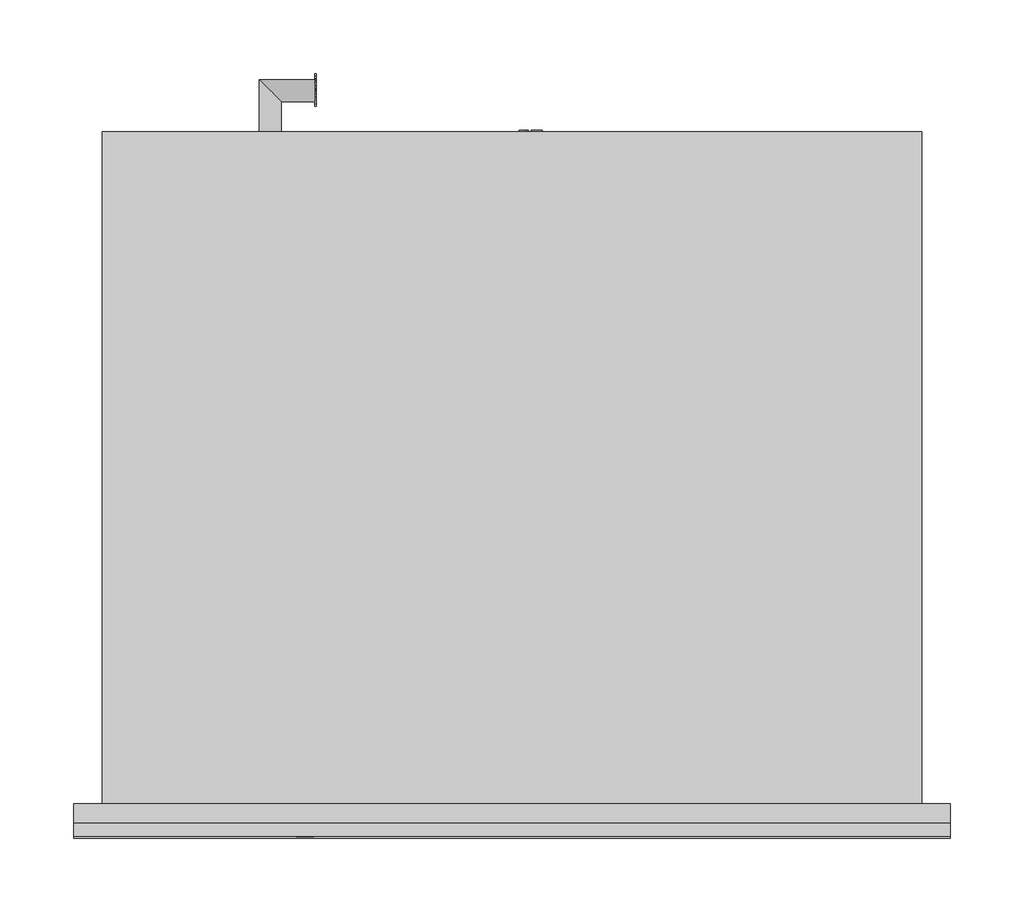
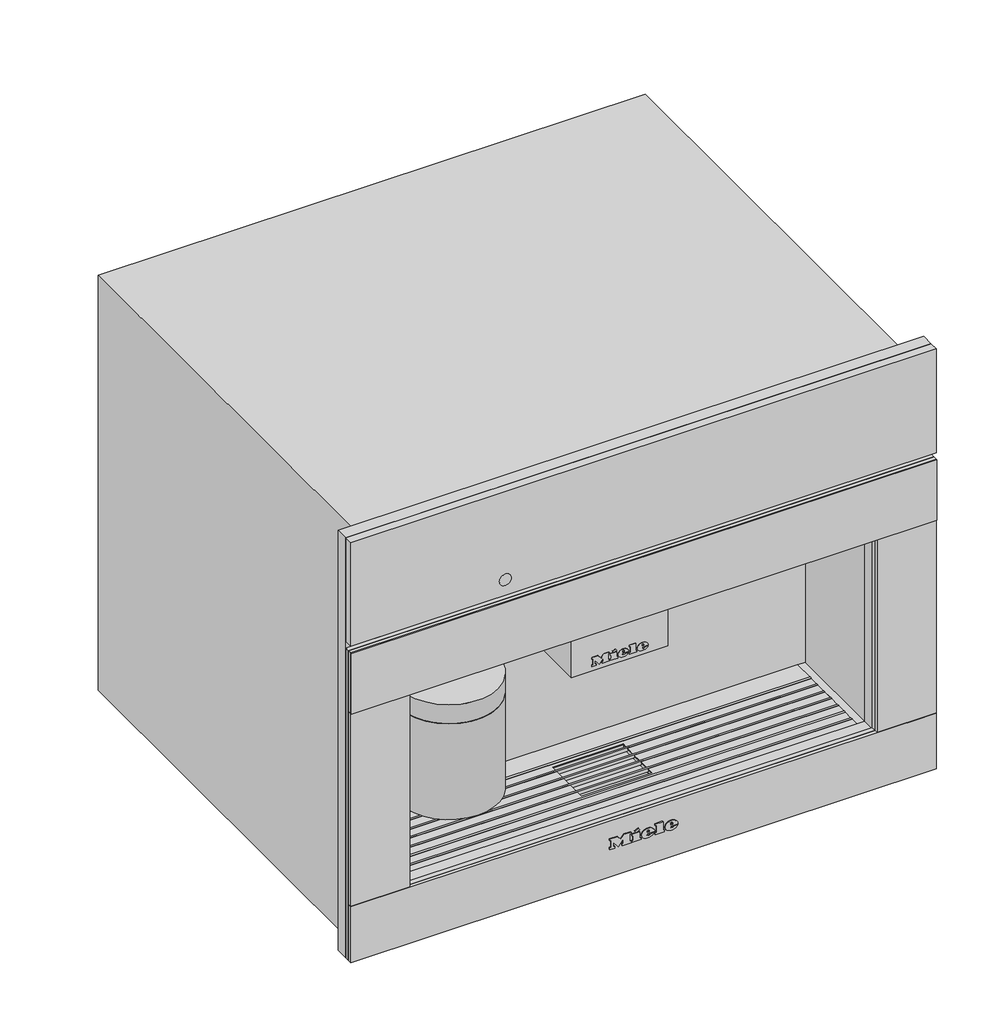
# Not in any storey: 1 proxy.
"""IFC4 building model written with IfcOpenShell, lengths in millimetres."""

from ifc_helpers import new_model, si_unit, origin, place, context, project, spatial, transform, mapped, element, save
from components import specialty_equipment_bbc4acb7

model = new_model("IFC4")

# Units and contexts
model_context = context("Model", 3, world=origin())
ifc_project = project(units=[si_unit("LENGTHUNIT", "METRE", prefix="MILLI")], contexts=[model_context])

# Site, building
site = spatial("IfcSite", under=ifc_project)
building = spatial("IfcBuilding", under=site)

# Proxy
placement = place(None, origin())
specialty_equipment_shape = specialty_equipment_bbc4acb7(model_context)
element("IfcBuildingElementProxy", 1, Name="11166630_PL_CVA7845_EDST-CLST : 29784540_PL_11166630_CVA7845_EDST-CLST", ObjectType="11166630_PL_CVA7845_EDST-CLST : 29784540_PL_11166630_CVA7845_EDST-CLST", at=placement, inside=building, context=model_context, shape_type="MappedRepresentation", body=[
    mapped(specialty_equipment_shape, transform((0.0, 0.0, 0.0), x_axis=(1.0, 0.0, 0.0), y_axis=(0.0, 1.0, 0.0), z_axis=(0.0, 0.0, 1.0))),
])

save(model, "model.ifc")
